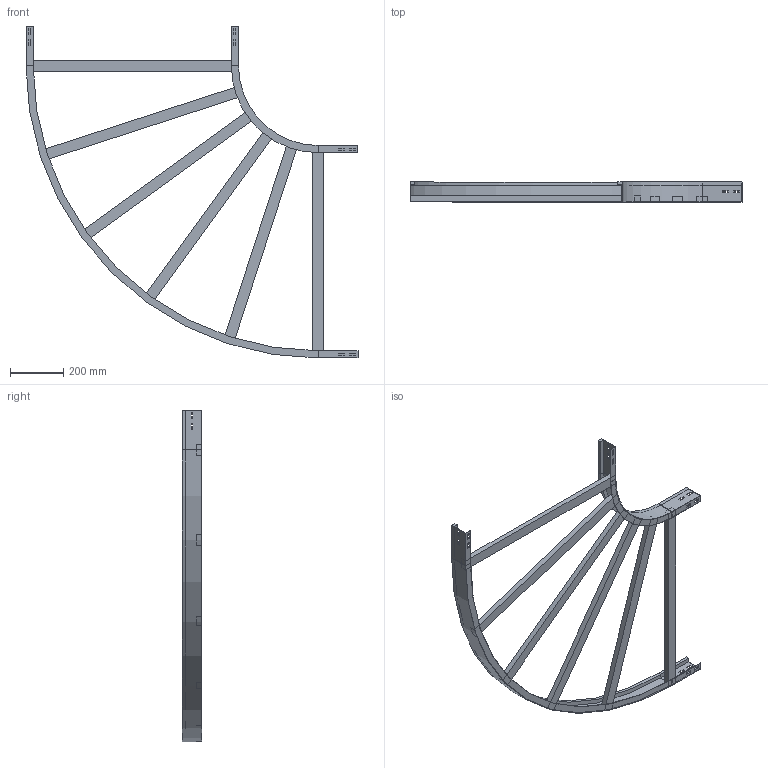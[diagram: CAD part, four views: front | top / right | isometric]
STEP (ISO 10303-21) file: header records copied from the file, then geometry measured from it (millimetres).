
FILE_DESCRIPTION (( 'STEP AP214' ), '1' );
FILE_NAME ('A2_10B3C800.step', '2025-02-21T15:26:39', ( '' ), ( '' ), 'SwSTEP 2.0', 'SolidWorks 2023', '' );
FILE_SCHEMA (( 'AUTOMOTIVE_DESIGN' ));
Length unit declared in the file: millimetre
Products named in the file (4): TRAVERSINO_800; A2_10B3C800; A2_LONGH.ESTERNO 90°_H75_R300+800; A2_LONGH.INTERNO 90°_H75_R300
Assembly tree (8 placements, depth 2):
  A2_10B3C800
    A2_LONGH.INTERNO 90°_H75_R300
    A2_LONGH.ESTERNO 90°_H75_R300+800
    TRAVERSINO_800  x6
Bounding box: 1250 x 75 x 1250 mm (x, y, z)
Volume: 4960885 mm3; surface area: 1246703.1 mm2
Topology: 8 solids, 8 shells, 152 faces, 376 edges, 240 vertices
Faces by surface type: plane 144, cylinder 8
Entity records: 3845 total; most frequent: CARTESIAN_POINT 649, ORIENTED_EDGE 632, DIRECTION 598, EDGE_CURVE 316, VECTOR 300, LINE 300, VERTEX_POINT 200, EDGE_LOOP 154
